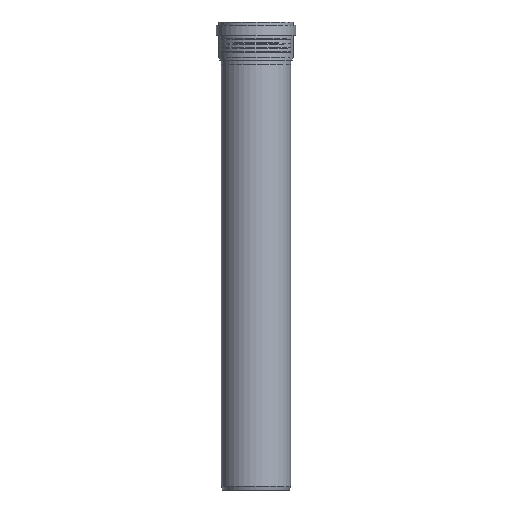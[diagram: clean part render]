
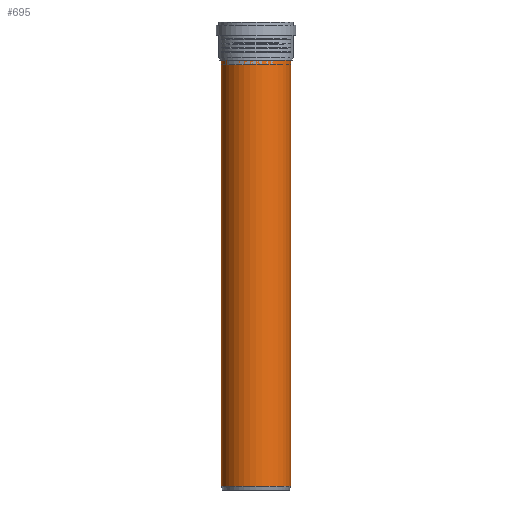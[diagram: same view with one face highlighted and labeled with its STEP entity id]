
A CAD part, front view. The second image highlights one B-rep face of the part: STEP entity #695.
In plain terms, the highlighted cylindrical face has radius 80.125 mm (diameter 160.25 mm), a full revolution.
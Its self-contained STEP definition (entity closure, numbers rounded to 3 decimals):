
#94=CYLINDRICAL_SURFACE($,#750,80.125);
#118=FACE_BOUND($,#198,.T.);
#153=FACE_OUTER_BOUND($,#197,.T.);
#197=EDGE_LOOP($,(#472));
#198=EDGE_LOOP($,(#473));
#272=CIRCLE($,#747,80.125);
#274=CIRCLE($,#751,80.125);
#311=VERTEX_POINT($,#1021);
#313=VERTEX_POINT($,#1027);
#382=EDGE_CURVE($,#311,#311,#272,.T.);
#384=EDGE_CURVE($,#313,#313,#274,.T.);
#472=ORIENTED_EDGE($,*,*,#384,.T.);
#473=ORIENTED_EDGE($,*,*,#382,.F.);
#695=ADVANCED_FACE($,(#153,#118),#94,.T.);
#747=AXIS2_PLACEMENT_3D($,#1022,#841,#842);
#750=AXIS2_PLACEMENT_3D($,#1026,#847,#848);
#751=AXIS2_PLACEMENT_3D($,#1028,#849,#850);
#841=DIRECTION('center_axis',(0.,0.,-1.));
#842=DIRECTION('ref_axis',(-1.,0.,0.));
#847=DIRECTION('center_axis',(0.,0.,1.));
#848=DIRECTION('ref_axis',(-1.,0.,0.));
#849=DIRECTION('center_axis',(0.,0.,-1.));
#850=DIRECTION('ref_axis',(-1.,0.,0.));
#1021=CARTESIAN_POINT('',(80.125,0.,-487.));
#1022=CARTESIAN_POINT('Origin',(0.,0.,-487.));
#1026=CARTESIAN_POINT('Origin',(0.,0.,0.));
#1027=CARTESIAN_POINT('',(80.125,0.,496.));
#1028=CARTESIAN_POINT('Origin',(0.,0.,496.));
